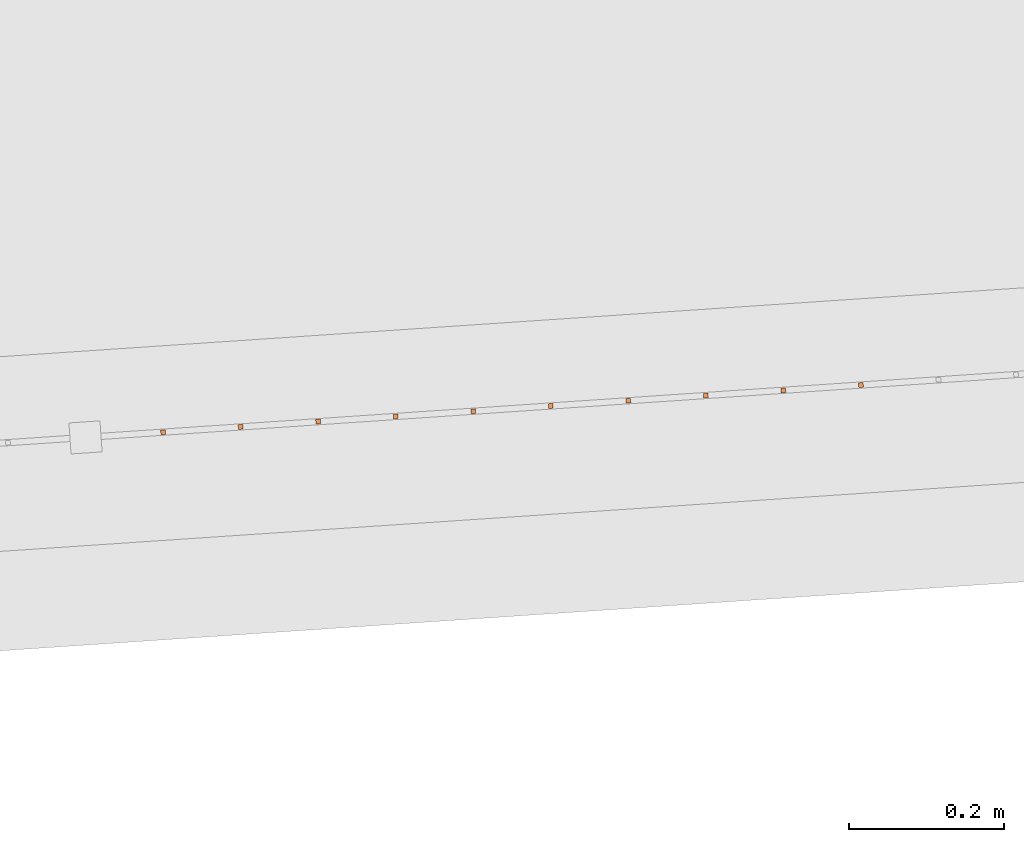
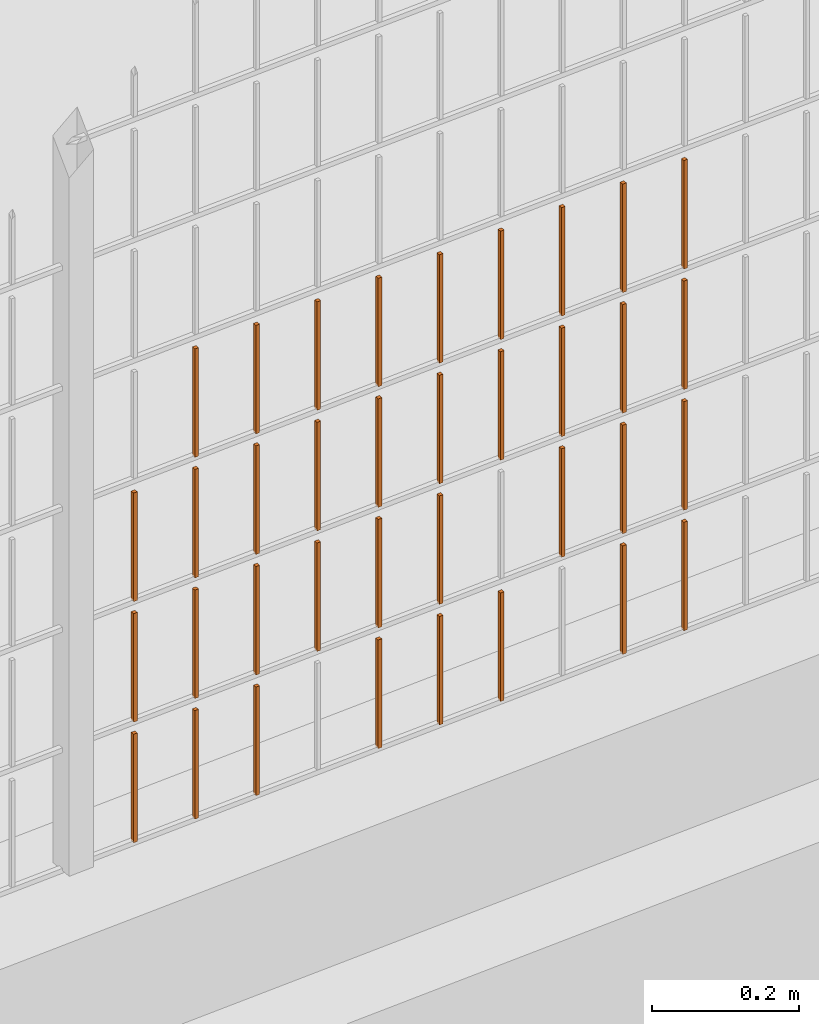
# One storey, part 196 of 1809: 36 proxies, 1 element without a shape of its own.
"""IFC2X3 building model written with IfcOpenShell, lengths in millimetres."""

from ifc_helpers import new_model, entity, si_unit, converted_unit, derived_unit, money_unit, direction, frame, origin_with_axes, place, context, subcontext, project, spatial, faceted_brep, source, transform, mapped, material, type_object, element, aggregate, save


model = new_model("IFC2X3")

# Units and contexts
model_context = context("Model", 3, precision=0.01, world=origin_with_axes(), true_north=direction((0.0, 1.0)))
body_context = subcontext(model_context, "Body", "Model", "MODEL_VIEW")
ifc_project = project(units=[si_unit("LENGTHUNIT", "METRE", prefix="MILLI"), si_unit("AREAUNIT", "SQUARE_METRE"), si_unit("VOLUMEUNIT", "CUBIC_METRE"), converted_unit("PLANEANGLEUNIT", "DEGREE", entity("IfcPlaneAngleMeasure", 0.0174532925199), si_unit("PLANEANGLEUNIT", "RADIAN"), dimensions=[0, 0, 0, 0, 0, 0, 0]), si_unit("SOLIDANGLEUNIT", "STERADIAN"), money_unit("EUR"), converted_unit("TIMEUNIT", "Year", entity("IfcTimeMeasure", 31556926.0), si_unit("TIMEUNIT", "SECOND"), dimensions=[0, 0, 1, 0, 0, 0, 0]), si_unit("MASSUNIT", "GRAM", prefix="KILO"), si_unit("THERMODYNAMICTEMPERATUREUNIT", "DEGREE_CELSIUS"), si_unit("LUMINOUSINTENSITYUNIT", "LUMEN"), si_unit("ENERGYUNIT", "JOULE", prefix="MEGA"), derived_unit("THERMALCONDUCTANCEUNIT", [(si_unit("POWERUNIT", "WATT"), 1), (si_unit("LENGTHUNIT", "METRE"), -1), (si_unit("THERMODYNAMICTEMPERATUREUNIT", "KELVIN"), -1)]), derived_unit("SPECIFICHEATCAPACITYUNIT", [(si_unit("ENERGYUNIT", "JOULE"), 1), (si_unit("MASSUNIT", "GRAM", prefix="KILO"), -1), (si_unit("THERMODYNAMICTEMPERATUREUNIT", "KELVIN"), -1)]), derived_unit("MASSDENSITYUNIT", [(si_unit("MASSUNIT", "GRAM", prefix="KILO"), 1), (si_unit("VOLUMEUNIT", "CUBIC_METRE"), -1)])], contexts=[model_context])

# Site, building, storey
site_placement = place(None, origin_with_axes())
site = spatial("IfcSite", under=ifc_project, at=site_placement, Name="Politse- ja Piirivalveameti ning Päästeameti ühishoone", CompositionType="ELEMENT")
building_placement = place(site_placement, origin_with_axes())
building = spatial("IfcBuilding", under=site, at=building_placement, Name="Politse- ja Piirivalveameti ning Päästeameti ühishoone", CompositionType="ELEMENT")
storey_placement = place(building_placement, origin_with_axes())
storey = spatial("IfcBuildingStorey", under=building, at=storey_placement, Name="Esimene korrus", CompositionType="ELEMENT", Elevation=0.0)

# Proxies
building_element_proxy_type_1 = type_object("IfcBuildingElementProxyType", Name="Railing Type", PredefinedType="NOTDEFINED")
proxy_1_placement = place(storey_placement, frame((89252.001212, -29183.4766571, 203.661247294), z_axis=(0.0, 0.0, 1.0), x_axis=(1.0, 0.0, 0.0)))
proxy_1 = element("IfcBuildingElementProxy", 1, at=proxy_1_placement, inside=storey, type_object=building_element_proxy_type_1, Name="PIIRDEAED")
ifc_material = material(Name="ET-03_Raud")
building_element_proxy_type_2 = type_object("IfcBuildingElementProxyType", Name="IfcBuildingElementProxy", PredefinedType="NOTDEFINED")
shared_shape_1 = source(origin_with_axes(), body_context, "Body", "Brep", [
    faceted_brep([(3.0, 3.0, -0.000752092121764), (-3.0, 3.0, -0.000752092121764), (-3.0, 3.0, 179.99926046), (3.0, 3.0, 179.99926046), (3.0, -3.0, 0.000752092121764), (-3.0, -3.0, 0.000752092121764), (-3.0, -3.0, 180.000764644), (3.0, -3.0, 180.000764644)], [[[0, 1, 2, 3]], [[0, 4, 5, 1]], [[1, 5, 6, 2]], [[3, 2, 6, 7]], [[4, 0, 3, 7]], [[5, 4, 7, 6]]]),
])
proxy_2_placement = place(proxy_1_placement, frame((-66175.8962496, -21767.7068144, 10.6064590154), z_axis=(0.0, 0.0, 1.0), x_axis=(1.0, 0.0, 0.0)))
proxy_2 = element("IfcBuildingElementProxy", 2, at=proxy_2_placement, type_object=building_element_proxy_type_2, material=ifc_material, Name="BALUSTER - 001", context=body_context, shape_type="MappedRepresentation", body=[
    mapped(shared_shape_1, transform((0.0, 0.0, 0.0), x_axis=(-0.0673926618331, 0.997726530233, 0.0), y_axis=(-0.997726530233, -0.0673926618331, 0.0), z_axis=(0.0, 0.0, 1.0))),
])
shared_shape_2 = source(origin_with_axes(), body_context, "Body", "Brep", [
    faceted_brep([(3.0, 3.0, -0.000752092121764), (-3.0, 3.0, -0.000752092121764), (-3.0, 3.0, 179.99926046), (3.0, 3.0, 179.99926046), (3.0, -3.0, 0.000752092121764), (-3.0, -3.0, 0.000752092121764), (-3.0, -3.0, 180.000764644), (3.0, -3.0, 180.000764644)], [[[0, 1, 2, 3]], [[0, 4, 5, 1]], [[1, 5, 6, 2]], [[3, 2, 6, 7]], [[4, 0, 3, 7]], [[5, 4, 7, 6]]]),
])
proxy_3_placement = place(proxy_1_placement, frame((-66175.8962496, -21767.7068144, 210.606459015), z_axis=(0.0, 0.0, 1.0), x_axis=(1.0, 0.0, 0.0)))
proxy_3 = element("IfcBuildingElementProxy", 3, at=proxy_3_placement, type_object=building_element_proxy_type_2, material=ifc_material, Name="BALUSTER - 001", context=body_context, shape_type="MappedRepresentation", body=[
    mapped(shared_shape_2, transform((0.0, 0.0, 0.0), x_axis=(-0.0673926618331, 0.997726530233, 0.0), y_axis=(-0.997726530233, -0.0673926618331, 0.0), z_axis=(0.0, 0.0, 1.0))),
])
proxy_4_placement = place(proxy_1_placement, frame((-66175.8962496, -21767.7068144, 410.606459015), z_axis=(0.0, 0.0, 1.0), x_axis=(1.0, 0.0, 0.0)))
proxy_4 = element("IfcBuildingElementProxy", 4, at=proxy_4_placement, type_object=building_element_proxy_type_2, material=ifc_material, Name="BALUSTER - 001", context=body_context, shape_type="MappedRepresentation", body=[
    mapped(shared_shape_2, transform((0.0, 0.0, 0.0), x_axis=(-0.0673926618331, 0.997726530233, 0.0), y_axis=(-0.997726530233, -0.0673926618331, 0.0), z_axis=(0.0, 0.0, 1.0))),
])
shared_shape_3 = source(origin_with_axes(), body_context, "Body", "Brep", [
    faceted_brep([(3.0, 3.0, -0.000752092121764), (-3.0, 3.0, -0.000752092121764), (-3.0, 3.0, 179.99926046), (3.0, 3.0, 179.99926046), (3.0, -3.0, 0.000752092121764), (-3.0, -3.0, 0.000752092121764), (-3.0, -3.0, 180.000764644), (3.0, -3.0, 180.000764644)], [[[0, 1, 2, 3]], [[0, 4, 5, 1]], [[1, 5, 6, 2]], [[3, 2, 6, 7]], [[4, 0, 3, 7]], [[5, 4, 7, 6]]]),
])
proxy_5_placement = place(proxy_1_placement, frame((-66175.8962496, -21767.7068144, 610.606459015), z_axis=(0.0, 0.0, 1.0), x_axis=(1.0, 0.0, 0.0)))
proxy_5 = element("IfcBuildingElementProxy", 5, at=proxy_5_placement, type_object=building_element_proxy_type_2, material=ifc_material, Name="BALUSTER - 001", context=body_context, shape_type="MappedRepresentation", body=[
    mapped(shared_shape_3, transform((0.0, 0.0, 0.0), x_axis=(-0.0673926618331, 0.997726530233, 0.0), y_axis=(-0.997726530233, -0.0673926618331, 0.0), z_axis=(0.0, 0.0, 1.0))),
])
shared_shape_4 = source(origin_with_axes(), body_context, "Body", "Brep", [
    faceted_brep([(3.0, 3.0, -0.000752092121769), (-3.0, 3.0, -0.000752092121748), (-3.0, 3.0, 179.99926046), (3.0, 3.0, 179.99926046), (3.0, -3.0, 0.000752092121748), (-3.0, -3.0, 0.000752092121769), (-3.0, -3.0, 180.000764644), (3.0, -3.0, 180.000764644)], [[[0, 1, 2, 3]], [[0, 4, 5, 1]], [[1, 5, 6, 2]], [[3, 2, 6, 7]], [[4, 0, 3, 7]], [[5, 4, 7, 6]]]),
])
proxy_6_placement = place(proxy_1_placement, frame((-66974.0774738, -21821.6209439, 10.4059011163), z_axis=(0.0, 0.0, 1.0), x_axis=(1.0, 0.0, 0.0)))
proxy_6 = element("IfcBuildingElementProxy", 6, at=proxy_6_placement, type_object=building_element_proxy_type_2, material=ifc_material, Name="BALUSTER - 001", context=body_context, shape_type="MappedRepresentation", body=[
    mapped(shared_shape_4, transform((0.0, 0.0, 0.0), x_axis=(-0.0673926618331, 0.997726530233, 0.0), y_axis=(-0.997726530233, -0.0673926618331, 0.0), z_axis=(0.0, 0.0, 1.0))),
])
shared_shape_5 = source(origin_with_axes(), body_context, "Body", "Brep", [
    faceted_brep([(3.0, 3.0, -0.000752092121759), (-3.0, 3.0, -0.000752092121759), (-3.0, 3.0, 179.99926046), (3.0, 3.0, 179.99926046), (3.0, -3.0, 0.000752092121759), (-3.0, -3.0, 0.000752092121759), (-3.0, -3.0, 180.000764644), (3.0, -3.0, 180.000764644)], [[[0, 1, 2, 3]], [[0, 4, 5, 1]], [[1, 5, 6, 2]], [[3, 2, 6, 7]], [[4, 0, 3, 7]], [[5, 4, 7, 6]]]),
])
proxy_7_placement = place(proxy_1_placement, frame((-66574.9868617, -21794.6638792, 10.5061800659), z_axis=(0.0, 0.0, 1.0), x_axis=(1.0, 0.0, 0.0)))
proxy_7 = element("IfcBuildingElementProxy", 7, at=proxy_7_placement, type_object=building_element_proxy_type_2, material=ifc_material, Name="BALUSTER - 001", context=body_context, shape_type="MappedRepresentation", body=[
    mapped(shared_shape_5, transform((0.0, 0.0, 0.0), x_axis=(-0.0673926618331, 0.997726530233, 0.0), y_axis=(-0.997726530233, -0.0673926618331, 0.0), z_axis=(0.0, 0.0, 1.0))),
])
shared_shape_6 = source(origin_with_axes(), body_context, "Body", "Brep", [
    faceted_brep([(3.0, 3.0, -0.000752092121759), (-3.0, 3.0, -0.000752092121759), (-3.0, 3.0, 179.99926046), (3.0, 3.0, 179.99926046), (3.0, -3.0, 0.000752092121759), (-3.0, -3.0, 0.000752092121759), (-3.0, -3.0, 180.000764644), (3.0, -3.0, 180.000764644)], [[[0, 1, 2, 3]], [[0, 4, 5, 1]], [[1, 5, 6, 2]], [[3, 2, 6, 7]], [[4, 0, 3, 7]], [[5, 4, 7, 6]]]),
])
proxy_8_placement = place(proxy_1_placement, frame((-66275.6689027, -21774.4460806, 10.581389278), z_axis=(0.0, 0.0, 1.0), x_axis=(1.0, 0.0, 0.0)))
proxy_8 = element("IfcBuildingElementProxy", 8, at=proxy_8_placement, type_object=building_element_proxy_type_2, material=ifc_material, Name="BALUSTER - 001", context=body_context, shape_type="MappedRepresentation", body=[
    mapped(shared_shape_6, transform((0.0, 0.0, 0.0), x_axis=(-0.0673926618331, 0.997726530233, 0.0), y_axis=(-0.997726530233, -0.0673926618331, 0.0), z_axis=(0.0, 0.0, 1.0))),
])
shared_shape_7 = source(origin_with_axes(), body_context, "Body", "Brep", [
    faceted_brep([(3.0, 3.0, -0.000752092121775), (-3.0, 3.0, -0.000752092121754), (-3.0, 3.0, 179.99926046), (3.0, 3.0, 179.99926046), (3.0, -3.0, 0.000752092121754), (-3.0, -3.0, 0.000752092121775), (-3.0, -3.0, 180.000764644), (3.0, -3.0, 180.000764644)], [[[0, 1, 2, 3]], [[0, 4, 5, 1]], [[1, 5, 6, 2]], [[3, 2, 6, 7]], [[4, 0, 3, 7]], [[5, 4, 7, 6]]]),
])
proxy_9_placement = place(proxy_1_placement, frame((-67073.8501268, -21828.3602101, 410.380831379), z_axis=(0.0, 0.0, 1.0), x_axis=(1.0, 0.0, 0.0)))
proxy_9 = element("IfcBuildingElementProxy", 9, at=proxy_9_placement, type_object=building_element_proxy_type_2, material=ifc_material, Name="BALUSTER - 001", context=body_context, shape_type="MappedRepresentation", body=[
    mapped(shared_shape_7, transform((0.0, 0.0, 0.0), x_axis=(-0.0673926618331, 0.997726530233, 0.0), y_axis=(-0.997726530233, -0.0673926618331, 0.0), z_axis=(0.0, 0.0, 1.0))),
])
proxy_10_placement = place(proxy_1_placement, frame((-66475.2142087, -21787.924613, 610.531249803), z_axis=(0.0, 0.0, 1.0), x_axis=(1.0, 0.0, 0.0)))
proxy_10 = element("IfcBuildingElementProxy", 10, at=proxy_10_placement, type_object=building_element_proxy_type_2, material=ifc_material, Name="BALUSTER - 001", context=body_context, shape_type="MappedRepresentation", body=[
    mapped(shared_shape_7, transform((0.0, 0.0, 0.0), x_axis=(-0.0673926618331, 0.997726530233, 0.0), y_axis=(-0.997726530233, -0.0673926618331, 0.0), z_axis=(0.0, 0.0, 1.0))),
])
shared_shape_8 = source(origin_with_axes(), body_context, "Body", "Brep", [
    faceted_brep([(3.0, 3.0, -0.000752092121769), (-3.0, 3.0, -0.000752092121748), (-3.0, 3.0, 179.99926046), (3.0, 3.0, 179.99926046), (3.0, -3.0, 0.000752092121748), (-3.0, -3.0, 0.000752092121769), (-3.0, -3.0, 180.000764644), (3.0, -3.0, 180.000764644)], [[[0, 1, 2, 3]], [[0, 4, 5, 1]], [[1, 5, 6, 2]], [[3, 2, 6, 7]], [[4, 0, 3, 7]], [[5, 4, 7, 6]]]),
])
proxy_11_placement = place(proxy_1_placement, frame((-66974.0774738, -21821.6209439, 210.405901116), z_axis=(0.0, 0.0, 1.0), x_axis=(1.0, 0.0, 0.0)))
proxy_11 = element("IfcBuildingElementProxy", 11, at=proxy_11_placement, type_object=building_element_proxy_type_2, material=ifc_material, Name="BALUSTER - 001", context=body_context, shape_type="MappedRepresentation", body=[
    mapped(shared_shape_8, transform((0.0, 0.0, 0.0), x_axis=(-0.0673926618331, 0.997726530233, 0.0), y_axis=(-0.997726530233, -0.0673926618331, 0.0), z_axis=(0.0, 0.0, 1.0))),
])
shared_shape_9 = source(origin_with_axes(), body_context, "Body", "Brep", [
    faceted_brep([(3.0, 3.0, -0.000752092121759), (-3.0, 3.0, -0.000752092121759), (-3.0, 3.0, 179.99926046), (3.0, 3.0, 179.99926046), (3.0, -3.0, 0.000752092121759), (-3.0, -3.0, 0.000752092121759), (-3.0, -3.0, 180.000764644), (3.0, -3.0, 180.000764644)], [[[0, 1, 2, 3]], [[0, 4, 5, 1]], [[1, 5, 6, 2]], [[3, 2, 6, 7]], [[4, 0, 3, 7]], [[5, 4, 7, 6]]]),
])
proxy_12_placement = place(proxy_1_placement, frame((-66774.5321678, -21808.1424115, 210.456040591), z_axis=(0.0, 0.0, 1.0), x_axis=(1.0, 0.0, 0.0)))
proxy_12 = element("IfcBuildingElementProxy", 12, at=proxy_12_placement, type_object=building_element_proxy_type_2, material=ifc_material, Name="BALUSTER - 001", context=body_context, shape_type="MappedRepresentation", body=[
    mapped(shared_shape_9, transform((0.0, 0.0, 0.0), x_axis=(-0.0673926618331, 0.997726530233, 0.0), y_axis=(-0.997726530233, -0.0673926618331, 0.0), z_axis=(0.0, 0.0, 1.0))),
])
proxy_13_placement = place(proxy_1_placement, frame((-66774.5321678, -21808.1424115, 610.456040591), z_axis=(0.0, 0.0, 1.0), x_axis=(1.0, 0.0, 0.0)))
proxy_13 = element("IfcBuildingElementProxy", 13, at=proxy_13_placement, type_object=building_element_proxy_type_2, material=ifc_material, Name="BALUSTER - 001", context=body_context, shape_type="MappedRepresentation", body=[
    mapped(shared_shape_9, transform((0.0, 0.0, 0.0), x_axis=(-0.0673926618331, 0.997726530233, 0.0), y_axis=(-0.997726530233, -0.0673926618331, 0.0), z_axis=(0.0, 0.0, 1.0))),
])
shared_shape_10 = source(origin_with_axes(), body_context, "Body", "Brep", [
    faceted_brep([(3.0, 3.0, -0.000752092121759), (-3.0, 3.0, -0.000752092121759), (-3.0, 3.0, 179.99926046), (3.0, 3.0, 179.99926046), (3.0, -3.0, 0.000752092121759), (-3.0, -3.0, 0.000752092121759), (-3.0, -3.0, 180.000764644), (3.0, -3.0, 180.000764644)], [[[0, 1, 2, 3]], [[0, 4, 5, 1]], [[1, 5, 6, 2]], [[3, 2, 6, 7]], [[4, 0, 3, 7]], [[5, 4, 7, 6]]]),
])
proxy_14_placement = place(proxy_1_placement, frame((-66275.6689027, -21774.4460806, 410.581389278), z_axis=(0.0, 0.0, 1.0), x_axis=(1.0, 0.0, 0.0)))
proxy_14 = element("IfcBuildingElementProxy", 14, at=proxy_14_placement, type_object=building_element_proxy_type_2, material=ifc_material, Name="BALUSTER - 001", context=body_context, shape_type="MappedRepresentation", body=[
    mapped(shared_shape_10, transform((0.0, 0.0, 0.0), x_axis=(-0.0673926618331, 0.997726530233, 0.0), y_axis=(-0.997726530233, -0.0673926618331, 0.0), z_axis=(0.0, 0.0, 1.0))),
])
proxy_15_placement = place(proxy_1_placement, frame((-66275.6689027, -21774.4460806, 610.581389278), z_axis=(0.0, 0.0, 1.0), x_axis=(1.0, 0.0, 0.0)))
proxy_15 = element("IfcBuildingElementProxy", 15, at=proxy_15_placement, type_object=building_element_proxy_type_2, material=ifc_material, Name="BALUSTER - 001", context=body_context, shape_type="MappedRepresentation", body=[
    mapped(shared_shape_10, transform((0.0, 0.0, 0.0), x_axis=(-0.0673926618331, 0.997726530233, 0.0), y_axis=(-0.997726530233, -0.0673926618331, 0.0), z_axis=(0.0, 0.0, 1.0))),
])
shared_shape_11 = source(origin_with_axes(), body_context, "Body", "Brep", [
    faceted_brep([(3.0, 3.0, -0.000752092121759), (-3.0, 3.0, -0.000752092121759), (-3.0, 3.0, 179.99926046), (3.0, 3.0, 179.99926046), (3.0, -3.0, 0.000752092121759), (-3.0, -3.0, 0.000752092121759), (-3.0, -3.0, 180.000764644), (3.0, -3.0, 180.000764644)], [[[0, 1, 2, 3]], [[0, 4, 5, 1]], [[1, 5, 6, 2]], [[3, 2, 6, 7]], [[4, 0, 3, 7]], [[5, 4, 7, 6]]]),
])
proxy_16_placement = place(proxy_1_placement, frame((-66574.9868617, -21794.6638792, 410.506180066), z_axis=(0.0, 0.0, 1.0), x_axis=(1.0, 0.0, 0.0)))
proxy_16 = element("IfcBuildingElementProxy", 16, at=proxy_16_placement, type_object=building_element_proxy_type_2, material=ifc_material, Name="BALUSTER - 001", context=body_context, shape_type="MappedRepresentation", body=[
    mapped(shared_shape_11, transform((0.0, 0.0, 0.0), x_axis=(-0.0673926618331, 0.997726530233, 0.0), y_axis=(-0.997726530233, -0.0673926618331, 0.0), z_axis=(0.0, 0.0, 1.0))),
])
shared_shape_12 = source(origin_with_axes(), body_context, "Body", "Brep", [
    faceted_brep([(3.0, 3.0, -0.000752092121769), (-3.0, 3.0, -0.000752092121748), (-3.0, 3.0, 179.99926046), (3.0, 3.0, 179.99926046), (3.0, -3.0, 0.000752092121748), (-3.0, -3.0, 0.000752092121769), (-3.0, -3.0, 180.000764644), (3.0, -3.0, 180.000764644)], [[[0, 1, 2, 3]], [[0, 4, 5, 1]], [[1, 5, 6, 2]], [[3, 2, 6, 7]], [[4, 0, 3, 7]], [[5, 4, 7, 6]]]),
])
proxy_17_placement = place(proxy_1_placement, frame((-66974.0774738, -21821.6209439, 410.405901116), z_axis=(0.0, 0.0, 1.0), x_axis=(1.0, 0.0, 0.0)))
proxy_17 = element("IfcBuildingElementProxy", 17, at=proxy_17_placement, type_object=building_element_proxy_type_2, material=ifc_material, Name="BALUSTER - 001", context=body_context, shape_type="MappedRepresentation", body=[
    mapped(shared_shape_12, transform((0.0, 0.0, 0.0), x_axis=(-0.0673926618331, 0.997726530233, 0.0), y_axis=(-0.997726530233, -0.0673926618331, 0.0), z_axis=(0.0, 0.0, 1.0))),
])
proxy_18_placement = place(proxy_1_placement, frame((-66974.0774738, -21821.6209439, 610.405901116), z_axis=(0.0, 0.0, 1.0), x_axis=(1.0, 0.0, 0.0)))
proxy_18 = element("IfcBuildingElementProxy", 18, at=proxy_18_placement, type_object=building_element_proxy_type_2, material=ifc_material, Name="BALUSTER - 001", context=body_context, shape_type="MappedRepresentation", body=[
    mapped(shared_shape_12, transform((0.0, 0.0, 0.0), x_axis=(-0.0673926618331, 0.997726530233, 0.0), y_axis=(-0.997726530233, -0.0673926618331, 0.0), z_axis=(0.0, 0.0, 1.0))),
])
shared_shape_13 = source(origin_with_axes(), body_context, "Body", "Brep", [
    faceted_brep([(3.0, 3.0, -0.000752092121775), (-3.0, 3.0, -0.000752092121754), (-3.0, 3.0, 179.99926046), (3.0, 3.0, 179.99926046), (3.0, -3.0, 0.000752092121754), (-3.0, -3.0, 0.000752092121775), (-3.0, -3.0, 180.000764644), (3.0, -3.0, 180.000764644)], [[[0, 1, 2, 3]], [[0, 4, 5, 1]], [[1, 5, 6, 2]], [[3, 2, 6, 7]], [[4, 0, 3, 7]], [[5, 4, 7, 6]]]),
])
proxy_19_placement = place(proxy_1_placement, frame((-66475.2142087, -21787.924613, 410.531249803), z_axis=(0.0, 0.0, 1.0), x_axis=(1.0, 0.0, 0.0)))
proxy_19 = element("IfcBuildingElementProxy", 19, at=proxy_19_placement, type_object=building_element_proxy_type_2, material=ifc_material, Name="BALUSTER - 001", context=body_context, shape_type="MappedRepresentation", body=[
    mapped(shared_shape_13, transform((0.0, 0.0, 0.0), x_axis=(-0.0673926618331, 0.997726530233, 0.0), y_axis=(-0.997726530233, -0.0673926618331, 0.0), z_axis=(0.0, 0.0, 1.0))),
])
shared_shape_14 = source(origin_with_axes(), body_context, "Body", "Brep", [
    faceted_brep([(3.0, 3.0, -0.000752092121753), (-3.0, 3.0, -0.000752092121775), (-3.0, 3.0, 179.99926046), (3.0, 3.0, 179.99926046), (3.0, -3.0, 0.000752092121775), (-3.0, -3.0, 0.000752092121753), (-3.0, -3.0, 180.000764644), (3.0, -3.0, 180.000764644)], [[[0, 1, 2, 3]], [[0, 4, 5, 1]], [[1, 5, 6, 2]], [[3, 2, 6, 7]], [[4, 0, 3, 7]], [[5, 4, 7, 6]]]),
])
proxy_20_placement = place(proxy_1_placement, frame((-66874.3048208, -21814.8816777, 10.4309708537), z_axis=(0.0, 0.0, 1.0), x_axis=(1.0, 0.0, 0.0)))
proxy_20 = element("IfcBuildingElementProxy", 20, at=proxy_20_placement, type_object=building_element_proxy_type_2, material=ifc_material, Name="BALUSTER - 001", context=body_context, shape_type="MappedRepresentation", body=[
    mapped(shared_shape_14, transform((0.0, 0.0, 0.0), x_axis=(-0.0673926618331, 0.997726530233, 0.0), y_axis=(-0.997726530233, -0.0673926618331, 0.0), z_axis=(0.0, 0.0, 1.0))),
])
shared_shape_15 = source(origin_with_axes(), body_context, "Body", "Brep", [
    faceted_brep([(3.0, 3.0, -0.000752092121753), (-3.0, 3.0, -0.000752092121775), (-3.0, 3.0, 179.99926046), (3.0, 3.0, 179.99926046), (3.0, -3.0, 0.000752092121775), (-3.0, -3.0, 0.000752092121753), (-3.0, -3.0, 180.000764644), (3.0, -3.0, 180.000764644)], [[[0, 1, 2, 3]], [[0, 4, 5, 1]], [[1, 5, 6, 2]], [[3, 2, 6, 7]], [[4, 0, 3, 7]], [[5, 4, 7, 6]]]),
])
proxy_21_placement = place(proxy_1_placement, frame((-66874.3048208, -21814.8816777, 610.430970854), z_axis=(0.0, 0.0, 1.0), x_axis=(1.0, 0.0, 0.0)))
proxy_21 = element("IfcBuildingElementProxy", 21, at=proxy_21_placement, type_object=building_element_proxy_type_2, material=ifc_material, Name="BALUSTER - 001", context=body_context, shape_type="MappedRepresentation", body=[
    mapped(shared_shape_15, transform((0.0, 0.0, 0.0), x_axis=(-0.0673926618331, 0.997726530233, 0.0), y_axis=(-0.997726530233, -0.0673926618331, 0.0), z_axis=(0.0, 0.0, 1.0))),
])
shared_shape_16 = source(origin_with_axes(), body_context, "Body", "Brep", [
    faceted_brep([(3.0, 3.0, -0.000752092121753), (-3.0, 3.0, -0.000752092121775), (-3.0, 3.0, 179.99926046), (3.0, 3.0, 179.99926046), (3.0, -3.0, 0.000752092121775), (-3.0, -3.0, 0.000752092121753), (-3.0, -3.0, 180.000764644), (3.0, -3.0, 180.000764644)], [[[0, 1, 2, 3]], [[0, 4, 5, 1]], [[1, 5, 6, 2]], [[3, 2, 6, 7]], [[4, 0, 3, 7]], [[5, 4, 7, 6]]]),
])
proxy_22_placement = place(proxy_1_placement, frame((-66874.3048208, -21814.8816777, 210.430970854), z_axis=(0.0, 0.0, 1.0), x_axis=(1.0, 0.0, 0.0)))
proxy_22 = element("IfcBuildingElementProxy", 22, at=proxy_22_placement, type_object=building_element_proxy_type_2, material=ifc_material, Name="BALUSTER - 001", context=body_context, shape_type="MappedRepresentation", body=[
    mapped(shared_shape_16, transform((0.0, 0.0, 0.0), x_axis=(-0.0673926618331, 0.997726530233, 0.0), y_axis=(-0.997726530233, -0.0673926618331, 0.0), z_axis=(0.0, 0.0, 1.0))),
])
proxy_23_placement = place(proxy_1_placement, frame((-66874.3048208, -21814.8816777, 410.430970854), z_axis=(0.0, 0.0, 1.0), x_axis=(1.0, 0.0, 0.0)))
proxy_23 = element("IfcBuildingElementProxy", 23, at=proxy_23_placement, type_object=building_element_proxy_type_2, material=ifc_material, Name="BALUSTER - 001", context=body_context, shape_type="MappedRepresentation", body=[
    mapped(shared_shape_16, transform((0.0, 0.0, 0.0), x_axis=(-0.0673926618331, 0.997726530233, 0.0), y_axis=(-0.997726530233, -0.0673926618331, 0.0), z_axis=(0.0, 0.0, 1.0))),
])
shared_shape_17 = source(origin_with_axes(), body_context, "Body", "Brep", [
    faceted_brep([(3.0, 3.0, -0.000752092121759), (-3.0, 3.0, -0.000752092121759), (-3.0, 3.0, 179.99926046), (3.0, 3.0, 179.99926046), (3.0, -3.0, 0.000752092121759), (-3.0, -3.0, 0.000752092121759), (-3.0, -3.0, 180.000764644), (3.0, -3.0, 180.000764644)], [[[0, 1, 2, 3]], [[0, 4, 5, 1]], [[1, 5, 6, 2]], [[3, 2, 6, 7]], [[4, 0, 3, 7]], [[5, 4, 7, 6]]]),
])
proxy_24_placement = place(proxy_1_placement, frame((-66774.5321678, -21808.1424115, 410.456040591), z_axis=(0.0, 0.0, 1.0), x_axis=(1.0, 0.0, 0.0)))
proxy_24 = element("IfcBuildingElementProxy", 24, at=proxy_24_placement, type_object=building_element_proxy_type_2, material=ifc_material, Name="BALUSTER - 001", context=body_context, shape_type="MappedRepresentation", body=[
    mapped(shared_shape_17, transform((0.0, 0.0, 0.0), x_axis=(-0.0673926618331, 0.997726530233, 0.0), y_axis=(-0.997726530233, -0.0673926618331, 0.0), z_axis=(0.0, 0.0, 1.0))),
])
proxy_25_placement = place(proxy_1_placement, frame((-66574.9868617, -21794.6638792, 610.506180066), z_axis=(0.0, 0.0, 1.0), x_axis=(1.0, 0.0, 0.0)))
proxy_25 = element("IfcBuildingElementProxy", 25, at=proxy_25_placement, type_object=building_element_proxy_type_2, material=ifc_material, Name="BALUSTER - 001", context=body_context, shape_type="MappedRepresentation", body=[
    mapped(shared_shape_17, transform((0.0, 0.0, 0.0), x_axis=(-0.0673926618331, 0.997726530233, 0.0), y_axis=(-0.997726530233, -0.0673926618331, 0.0), z_axis=(0.0, 0.0, 1.0))),
])
shared_shape_18 = source(origin_with_axes(), body_context, "Body", "Brep", [
    faceted_brep([(3.0, 3.0, -0.000752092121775), (-3.0, 3.0, -0.000752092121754), (-3.0, 3.0, 179.99926046), (3.0, 3.0, 179.99926046), (3.0, -3.0, 0.000752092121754), (-3.0, -3.0, 0.000752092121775), (-3.0, -3.0, 180.000764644), (3.0, -3.0, 180.000764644)], [[[0, 1, 2, 3]], [[0, 4, 5, 1]], [[1, 5, 6, 2]], [[3, 2, 6, 7]], [[4, 0, 3, 7]], [[5, 4, 7, 6]]]),
])
proxy_26_placement = place(proxy_1_placement, frame((-66475.2142087, -21787.924613, 10.5312498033), z_axis=(0.0, 0.0, 1.0), x_axis=(1.0, 0.0, 0.0)))
proxy_26 = element("IfcBuildingElementProxy", 26, at=proxy_26_placement, type_object=building_element_proxy_type_2, material=ifc_material, Name="BALUSTER - 001", context=body_context, shape_type="MappedRepresentation", body=[
    mapped(shared_shape_18, transform((0.0, 0.0, 0.0), x_axis=(-0.0673926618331, 0.997726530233, 0.0), y_axis=(-0.997726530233, -0.0673926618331, 0.0), z_axis=(0.0, 0.0, 1.0))),
])
proxy_27_placement = place(proxy_1_placement, frame((-67073.8501268, -21828.3602101, 10.3808313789), z_axis=(0.0, 0.0, 1.0), x_axis=(1.0, 0.0, 0.0)))
proxy_27 = element("IfcBuildingElementProxy", 27, at=proxy_27_placement, type_object=building_element_proxy_type_2, material=ifc_material, Name="BALUSTER - 001", context=body_context, shape_type="MappedRepresentation", body=[
    mapped(shared_shape_18, transform((0.0, 0.0, 0.0), x_axis=(-0.0673926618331, 0.997726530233, 0.0), y_axis=(-0.997726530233, -0.0673926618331, 0.0), z_axis=(0.0, 0.0, 1.0))),
])
shared_shape_19 = source(origin_with_axes(), body_context, "Body", "Brep", [
    faceted_brep([(3.0, 3.0, -0.000752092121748), (-3.0, 3.0, -0.00075209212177), (-3.0, 3.0, 179.99926046), (3.0, 3.0, 179.99926046), (3.0, -3.0, 0.00075209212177), (-3.0, -3.0, 0.000752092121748), (-3.0, -3.0, 180.000764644), (3.0, -3.0, 180.000764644)], [[[0, 1, 2, 3]], [[0, 4, 5, 1]], [[1, 5, 6, 2]], [[3, 2, 6, 7]], [[4, 0, 3, 7]], [[5, 4, 7, 6]]]),
])
proxy_28_placement = place(proxy_1_placement, frame((-66674.7595148, -21801.4031454, 10.4811103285), z_axis=(0.0, 0.0, 1.0), x_axis=(1.0, 0.0, 0.0)))
proxy_28 = element("IfcBuildingElementProxy", 28, at=proxy_28_placement, type_object=building_element_proxy_type_2, material=ifc_material, Name="BALUSTER - 001", context=body_context, shape_type="MappedRepresentation", body=[
    mapped(shared_shape_19, transform((0.0, 0.0, 0.0), x_axis=(-0.0673926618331, 0.997726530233, 0.0), y_axis=(-0.997726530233, -0.0673926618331, 0.0), z_axis=(0.0, 0.0, 1.0))),
])
proxy_29_placement = place(proxy_1_placement, frame((-66674.7595148, -21801.4031454, 210.481110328), z_axis=(0.0, 0.0, 1.0), x_axis=(1.0, 0.0, 0.0)))
proxy_29 = element("IfcBuildingElementProxy", 29, at=proxy_29_placement, type_object=building_element_proxy_type_2, material=ifc_material, Name="BALUSTER - 001", context=body_context, shape_type="MappedRepresentation", body=[
    mapped(shared_shape_19, transform((0.0, 0.0, 0.0), x_axis=(-0.0673926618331, 0.997726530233, 0.0), y_axis=(-0.997726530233, -0.0673926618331, 0.0), z_axis=(0.0, 0.0, 1.0))),
])
shared_shape_20 = source(origin_with_axes(), body_context, "Body", "Brep", [
    faceted_brep([(3.0, 3.0, -0.000752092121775), (-3.0, 3.0, -0.000752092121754), (-3.0, 3.0, 179.99926046), (3.0, 3.0, 179.99926046), (3.0, -3.0, 0.000752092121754), (-3.0, -3.0, 0.000752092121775), (-3.0, -3.0, 180.000764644), (3.0, -3.0, 180.000764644)], [[[0, 1, 2, 3]], [[0, 4, 5, 1]], [[1, 5, 6, 2]], [[3, 2, 6, 7]], [[4, 0, 3, 7]], [[5, 4, 7, 6]]]),
])
proxy_30_placement = place(proxy_1_placement, frame((-67073.8501268, -21828.3602101, 210.380831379), z_axis=(0.0, 0.0, 1.0), x_axis=(1.0, 0.0, 0.0)))
proxy_30 = element("IfcBuildingElementProxy", 30, at=proxy_30_placement, type_object=building_element_proxy_type_2, material=ifc_material, Name="BALUSTER - 001", context=body_context, shape_type="MappedRepresentation", body=[
    mapped(shared_shape_20, transform((0.0, 0.0, 0.0), x_axis=(-0.0673926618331, 0.997726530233, 0.0), y_axis=(-0.997726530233, -0.0673926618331, 0.0), z_axis=(0.0, 0.0, 1.0))),
])
shared_shape_21 = source(origin_with_axes(), body_context, "Body", "Brep", [
    faceted_brep([(3.0, 3.0, -0.000752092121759), (-3.0, 3.0, -0.000752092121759), (-3.0, 3.0, 179.99926046), (3.0, 3.0, 179.99926046), (3.0, -3.0, 0.000752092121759), (-3.0, -3.0, 0.000752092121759), (-3.0, -3.0, 180.000764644), (3.0, -3.0, 180.000764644)], [[[0, 1, 2, 3]], [[0, 4, 5, 1]], [[1, 5, 6, 2]], [[3, 2, 6, 7]], [[4, 0, 3, 7]], [[5, 4, 7, 6]]]),
])
proxy_31_placement = place(proxy_1_placement, frame((-66275.6689027, -21774.4460806, 210.581389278), z_axis=(0.0, 0.0, 1.0), x_axis=(1.0, 0.0, 0.0)))
proxy_31 = element("IfcBuildingElementProxy", 31, at=proxy_31_placement, type_object=building_element_proxy_type_2, material=ifc_material, Name="BALUSTER - 001", context=body_context, shape_type="MappedRepresentation", body=[
    mapped(shared_shape_21, transform((0.0, 0.0, 0.0), x_axis=(-0.0673926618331, 0.997726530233, 0.0), y_axis=(-0.997726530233, -0.0673926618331, 0.0), z_axis=(0.0, 0.0, 1.0))),
])
shared_shape_22 = source(origin_with_axes(), body_context, "Body", "Brep", [
    faceted_brep([(3.0, 3.0, -0.000752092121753), (-3.0, 3.0, -0.000752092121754), (-3.0, 3.0, 179.99926046), (3.0, 3.0, 179.99926046), (3.0, -3.0, 0.000752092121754), (-3.0, -3.0, 0.000752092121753), (-3.0, -3.0, 180.000764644), (3.0, -3.0, 180.000764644)], [[[0, 1, 2, 3]], [[0, 4, 5, 1]], [[1, 5, 6, 2]], [[3, 2, 6, 7]], [[4, 0, 3, 7]], [[5, 4, 7, 6]]]),
])
proxy_32_placement = place(proxy_1_placement, frame((-66375.4415557, -21781.1853468, 210.556319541), z_axis=(0.0, 0.0, 1.0), x_axis=(1.0, 0.0, 0.0)))
proxy_32 = element("IfcBuildingElementProxy", 32, at=proxy_32_placement, type_object=building_element_proxy_type_2, material=ifc_material, Name="BALUSTER - 001", context=body_context, shape_type="MappedRepresentation", body=[
    mapped(shared_shape_22, transform((0.0, 0.0, 0.0), x_axis=(-0.0673926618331, 0.997726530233, 0.0), y_axis=(-0.997726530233, -0.0673926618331, 0.0), z_axis=(0.0, 0.0, 1.0))),
])
proxy_33_placement = place(proxy_1_placement, frame((-66375.4415557, -21781.1853468, 410.556319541), z_axis=(0.0, 0.0, 1.0), x_axis=(1.0, 0.0, 0.0)))
proxy_33 = element("IfcBuildingElementProxy", 33, at=proxy_33_placement, type_object=building_element_proxy_type_2, material=ifc_material, Name="BALUSTER - 001", context=body_context, shape_type="MappedRepresentation", body=[
    mapped(shared_shape_22, transform((0.0, 0.0, 0.0), x_axis=(-0.0673926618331, 0.997726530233, 0.0), y_axis=(-0.997726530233, -0.0673926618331, 0.0), z_axis=(0.0, 0.0, 1.0))),
])
proxy_34_placement = place(proxy_1_placement, frame((-66375.4415557, -21781.1853468, 610.556319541), z_axis=(0.0, 0.0, 1.0), x_axis=(1.0, 0.0, 0.0)))
proxy_34 = element("IfcBuildingElementProxy", 34, at=proxy_34_placement, type_object=building_element_proxy_type_2, material=ifc_material, Name="BALUSTER - 001", context=body_context, shape_type="MappedRepresentation", body=[
    mapped(shared_shape_22, transform((0.0, 0.0, 0.0), x_axis=(-0.0673926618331, 0.997726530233, 0.0), y_axis=(-0.997726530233, -0.0673926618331, 0.0), z_axis=(0.0, 0.0, 1.0))),
])
shared_shape_23 = source(origin_with_axes(), body_context, "Body", "Brep", [
    faceted_brep([(3.0, 3.0, -0.000752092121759), (-3.0, 3.0, -0.000752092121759), (-3.0, 3.0, 179.99926046), (3.0, 3.0, 179.99926046), (3.0, -3.0, 0.000752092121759), (-3.0, -3.0, 0.000752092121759), (-3.0, -3.0, 180.000764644), (3.0, -3.0, 180.000764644)], [[[0, 1, 2, 3]], [[0, 4, 5, 1]], [[1, 5, 6, 2]], [[3, 2, 6, 7]], [[4, 0, 3, 7]], [[5, 4, 7, 6]]]),
])
proxy_35_placement = place(proxy_1_placement, frame((-66574.9868617, -21794.6638792, 210.506180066), z_axis=(0.0, 0.0, 1.0), x_axis=(1.0, 0.0, 0.0)))
proxy_35 = element("IfcBuildingElementProxy", 35, at=proxy_35_placement, type_object=building_element_proxy_type_2, material=ifc_material, Name="BALUSTER - 001", context=body_context, shape_type="MappedRepresentation", body=[
    mapped(shared_shape_23, transform((0.0, 0.0, 0.0), x_axis=(-0.0673926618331, 0.997726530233, 0.0), y_axis=(-0.997726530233, -0.0673926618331, 0.0), z_axis=(0.0, 0.0, 1.0))),
])
shared_shape_24 = source(origin_with_axes(), body_context, "Body", "Brep", [
    faceted_brep([(3.0, 3.0, -0.000752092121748), (-3.0, 3.0, -0.00075209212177), (-3.0, 3.0, 179.99926046), (3.0, 3.0, 179.99926046), (3.0, -3.0, 0.00075209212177), (-3.0, -3.0, 0.000752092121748), (-3.0, -3.0, 180.000764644), (3.0, -3.0, 180.000764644)], [[[0, 1, 2, 3]], [[0, 4, 5, 1]], [[1, 5, 6, 2]], [[3, 2, 6, 7]], [[4, 0, 3, 7]], [[5, 4, 7, 6]]]),
])
proxy_36_placement = place(proxy_1_placement, frame((-66674.7595148, -21801.4031454, 410.481110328), z_axis=(0.0, 0.0, 1.0), x_axis=(1.0, 0.0, 0.0)))
proxy_36 = element("IfcBuildingElementProxy", 36, at=proxy_36_placement, type_object=building_element_proxy_type_2, material=ifc_material, Name="BALUSTER - 001", context=body_context, shape_type="MappedRepresentation", body=[
    mapped(shared_shape_24, transform((0.0, 0.0, 0.0), x_axis=(-0.0673926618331, 0.997726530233, 0.0), y_axis=(-0.997726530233, -0.0673926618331, 0.0), z_axis=(0.0, 0.0, 1.0))),
])
shared_shape_25 = source(origin_with_axes(), body_context, "Body", "Brep", [
    faceted_brep([(3.0, 3.0, -0.000752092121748), (-3.0, 3.0, -0.00075209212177), (-3.0, 3.0, 179.99926046), (3.0, 3.0, 179.99926046), (3.0, -3.0, 0.00075209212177), (-3.0, -3.0, 0.000752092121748), (-3.0, -3.0, 180.000764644), (3.0, -3.0, 180.000764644)], [[[0, 1, 2, 3]], [[0, 4, 5, 1]], [[1, 5, 6, 2]], [[3, 2, 6, 7]], [[4, 0, 3, 7]], [[5, 4, 7, 6]]]),
])
proxy_37_placement = place(proxy_1_placement, frame((-66674.7595148, -21801.4031454, 610.481110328), z_axis=(0.0, 0.0, 1.0), x_axis=(1.0, 0.0, 0.0)))
proxy_37 = element("IfcBuildingElementProxy", 37, at=proxy_37_placement, type_object=building_element_proxy_type_2, material=ifc_material, Name="BALUSTER - 001", context=body_context, shape_type="MappedRepresentation", body=[
    mapped(shared_shape_25, transform((0.0, 0.0, 0.0), x_axis=(-0.0673926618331, 0.997726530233, 0.0), y_axis=(-0.997726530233, -0.0673926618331, 0.0), z_axis=(0.0, 0.0, 1.0))),
])
aggregate(proxy_1, [proxy_2, proxy_8, proxy_26, proxy_7, proxy_28, proxy_20, proxy_6, proxy_27, proxy_3, proxy_31, proxy_32, proxy_35, proxy_29, proxy_12, proxy_22, proxy_11, proxy_30, proxy_4, proxy_14, proxy_33, proxy_19, proxy_16, proxy_36, proxy_24, proxy_23, proxy_17, proxy_9, proxy_5, proxy_15, proxy_34, proxy_10, proxy_25, proxy_37, proxy_13, proxy_21, proxy_18])

save(model, "model.ifc")
